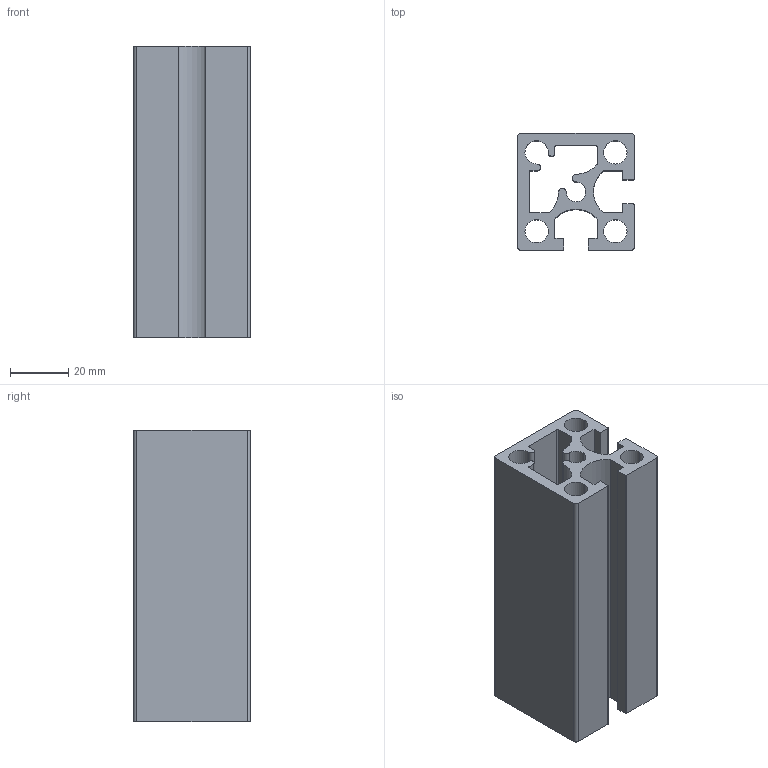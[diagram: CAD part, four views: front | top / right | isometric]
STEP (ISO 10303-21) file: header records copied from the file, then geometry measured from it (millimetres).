
FILE_DESCRIPTION (( 'STEP AP203' ), '1' );
FILE_NAME ('WS4040C2-8.STEP', '2024-02-19T03:53:40', ( '' ), ( '' ), 'SwSTEP 2.0', 'SolidWorks 2022', '' );
FILE_SCHEMA (( 'CONFIG_CONTROL_DESIGN' ));
Length unit declared in the file: millimetre
Products named in the file (1): WS4040C2-8
Bounding box: 40 x 40 x 100 mm (x, y, z)
Volume: 71729.7 mm3; surface area: 43194.3 mm2
Topology: 1 solids, 1 shells, 60 faces, 174 edges, 116 vertices
Faces by surface type: cylinder 34, plane 26
Entity records: 2099 total; most frequent: DIRECTION 364, CARTESIAN_POINT 351, ORIENTED_EDGE 348, EDGE_CURVE 174, AXIS2_PLACEMENT_3D 129, VERTEX_POINT 116, VECTOR 106, LINE 106
